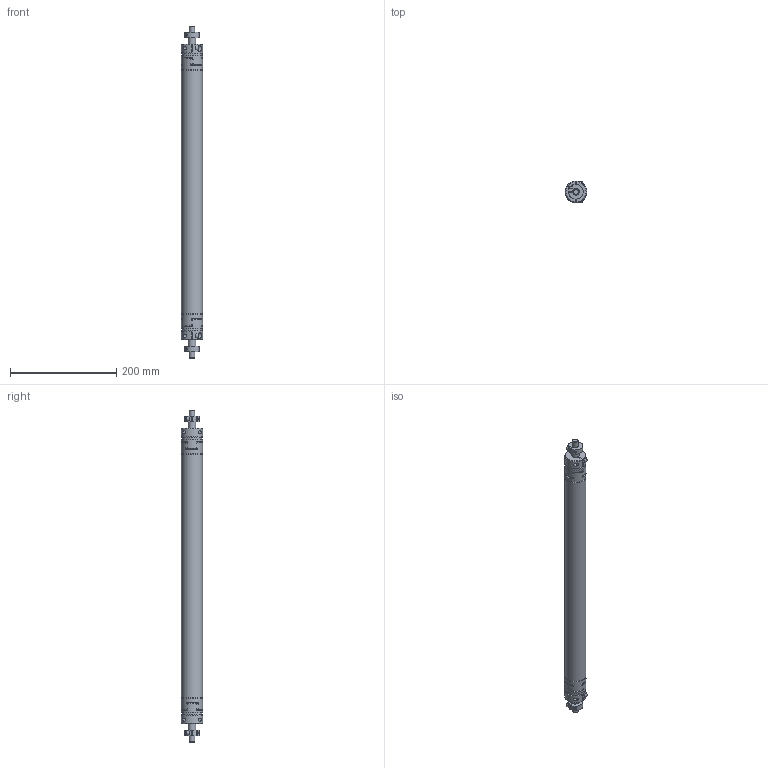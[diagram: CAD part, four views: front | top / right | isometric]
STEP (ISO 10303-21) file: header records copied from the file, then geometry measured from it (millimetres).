
FILE_DESCRIPTION(/* description */ ('Dummy'),/* implementation_level */ '2;1');
FILE_NAME(/* name */ 'D:\InventorWorkspace2019\CAD\_lokale konstruktionen\VerbWelleHLR070\0232.910-0650.stp',/* time_stamp */ '2020-04-14T16:12:41+02:00',/* author */ ('AR64535'),/* organization */ (''),/* preprocessor_version */ 'ST-DEVELOPER v17.2',/* originating_system */ 'Autodesk Inventor 2019',/* authorisation */ '');
FILE_SCHEMA (('AUTOMOTIVE_DESIGN { 1 0 10303 214 3 1 1 }'));
Length unit declared in the file: millimetre
Products named in the file (8): 0241910-XXXX_HLR070; 0241.910-XXXX; ROTEX GS19 ZR3_Klemmnabe D14; ROTEX GS19 ZR3_Rohr; 0232.007-02; 0231.029; 0231.012-01; 130-302319
Assembly tree (11 placements, depth 3):
  0241910-XXXX_HLR070
    0241.910-XXXX
      ROTEX GS19 ZR3_Klemmnabe D14  x2
      ROTEX GS19 ZR3_Rohr
    0232.007-02
      0231.029  x2
      0231.012-01  x2
      130-302319  x2
Bounding box: 40 x 40 x 626 mm (x, y, z)
Volume: 273023 mm3; surface area: 154363.8 mm2
Topology: 9 solids, 9 shells, 430 faces, 1260 edges, 858 vertices
Faces by surface type: cylinder 178, plane 156, cone 92, torus 4
Full cylindrical faces by diameter (mm): 3 x12, 4.134 x2, 5 x2, 5.3 x2, 6 x4, 6.6 x8, 8.5 x2, 10 x6, 14 x4, 18 x4, 22 x2, 34 x1, 39.4 x2, 40 x3
Entity records: 8244 total; most frequent: CARTESIAN_POINT 2097, ORIENTED_EDGE 1268, DIRECTION 1244, EDGE_CURVE 634, AXIS2_PLACEMENT_3D 516, VERTEX_POINT 432, CIRCLE 279, EDGE_LOOP 256
